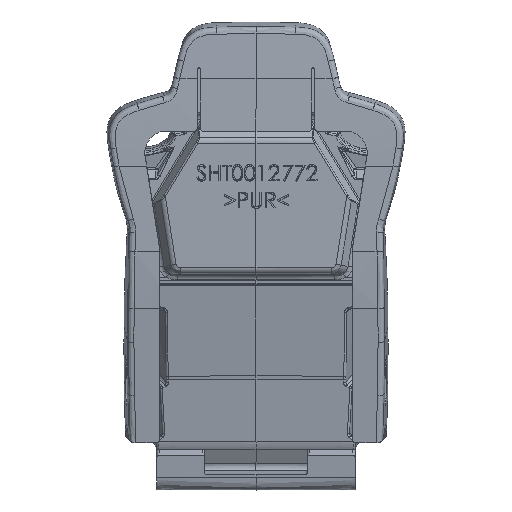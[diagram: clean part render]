
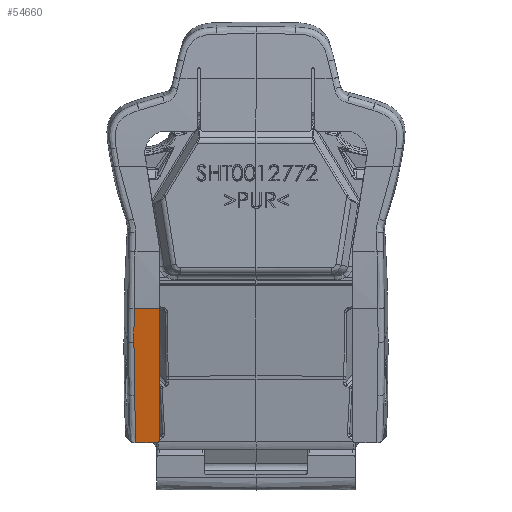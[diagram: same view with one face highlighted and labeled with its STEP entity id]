
A CAD part, left-side view. The second image highlights one B-rep face of the part: STEP entity #54660.
In plain terms, the highlighted planar face has unit normal (-0.984, 0.002, -0.181).
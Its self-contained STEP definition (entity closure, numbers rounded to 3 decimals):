
#54608=AXIS2_PLACEMENT_3D('Plane Axis2P3D',#54605,#54606,#54607) ;
#34523=CARTESIAN_POINT('Vertex',(603.56,-532.773,512.857)) ;
#34526=CARTESIAN_POINT('Line Origine',(603.595,-513.161,512.878)) ;
#34530=CARTESIAN_POINT('Vertex',(603.63,-493.549,512.9)) ;
#34719=CARTESIAN_POINT('Control Point',(603.63,-493.549,512.9)) ;
#34720=CARTESIAN_POINT('Control Point',(602.031,-493.278,521.599)) ;
#34721=CARTESIAN_POINT('Control Point',(600.432,-493.014,530.297)) ;
#34722=CARTESIAN_POINT('Control Point',(598.834,-492.76,538.993)) ;
#34723=CARTESIAN_POINT('Control Point',(595.637,-492.273,556.387)) ;
#34724=CARTESIAN_POINT('Control Point',(592.438,-491.831,573.786)) ;
#34725=CARTESIAN_POINT('Control Point',(590.839,-491.623,582.488)) ;
#34726=CARTESIAN_POINT('Control Point',(589.238,-491.429,591.194)) ;
#34727=CARTESIAN_POINT('Control Point',(587.637,-491.25,599.905)) ;
#34728=CARTESIAN_POINT('Vertex',(587.637,-491.25,599.905)) ;
#54426=CARTESIAN_POINT('Control Point',(587.637,-491.25,599.905)) ;
#54427=CARTESIAN_POINT('Control Point',(584.294,-490.874,618.091)) ;
#54428=CARTESIAN_POINT('Control Point',(580.687,-490.544,637.711)) ;
#54429=CARTESIAN_POINT('Control Point',(576.958,-490.283,657.994)) ;
#54430=CARTESIAN_POINT('Control Point',(573.249,-490.115,678.172)) ;
#54431=CARTESIAN_POINT('Control Point',(569.7,-490.063,697.474)) ;
#54432=CARTESIAN_POINT('Vertex',(569.7,-490.063,697.474)) ;
#54605=CARTESIAN_POINT('Axis2P3D Location',(558.177,-536.776,759.638)) ;
#54611=CARTESIAN_POINT('Control Point',(603.56,-532.773,512.857)) ;
#54612=CARTESIAN_POINT('Control Point',(603.559,-533.15,512.856)) ;
#54613=CARTESIAN_POINT('Control Point',(603.55,-533.527,512.904)) ;
#54614=CARTESIAN_POINT('Control Point',(603.532,-533.895,512.999)) ;
#54615=CARTESIAN_POINT('Control Point',(603.477,-534.616,513.285)) ;
#54616=CARTESIAN_POINT('Control Point',(603.393,-535.243,513.737)) ;
#54617=CARTESIAN_POINT('Control Point',(603.343,-535.534,514.005)) ;
#54618=CARTESIAN_POINT('Control Point',(603.229,-536.06,514.622)) ;
#54619=CARTESIAN_POINT('Control Point',(603.096,-536.429,515.34)) ;
#54620=CARTESIAN_POINT('Control Point',(603.024,-536.575,515.73)) ;
#54621=CARTESIAN_POINT('Control Point',(602.927,-536.706,516.254)) ;
#54622=CARTESIAN_POINT('Control Point',(602.829,-536.761,516.788)) ;
#54623=CARTESIAN_POINT('Control Point',(602.806,-536.769,516.914)) ;
#54624=CARTESIAN_POINT('Control Point',(602.783,-536.773,517.039)) ;
#54625=CARTESIAN_POINT('Control Point',(602.76,-536.773,517.164)) ;
#54626=CARTESIAN_POINT('Vertex',(602.76,-536.773,517.164)) ;
#54629=CARTESIAN_POINT('Line Origine',(580.469,-536.774,638.401)) ;
#54633=CARTESIAN_POINT('Vertex',(558.177,-536.776,759.638)) ;
#54636=CARTESIAN_POINT('Line Origine',(558.223,-513.543,759.641)) ;
#54640=CARTESIAN_POINT('Vertex',(558.269,-490.31,759.643)) ;
#54644=CARTESIAN_POINT('Control Point',(569.7,-490.063,697.474)) ;
#54645=CARTESIAN_POINT('Control Point',(567.414,-490.027,709.907)) ;
#54646=CARTESIAN_POINT('Control Point',(565.128,-490.033,722.34)) ;
#54647=CARTESIAN_POINT('Control Point',(562.842,-490.082,734.774)) ;
#54648=CARTESIAN_POINT('Control Point',(560.555,-490.174,747.209)) ;
#54649=CARTESIAN_POINT('Control Point',(558.269,-490.31,759.643)) ;
#34527=DIRECTION('Vector Direction',(-0.002,-1.,-0.001)) ;
#54606=DIRECTION('Axis2P3D Direction',(0.984,-0.002,0.181)) ;
#54607=DIRECTION('Axis2P3D XDirection',(0.181,0.,-0.984)) ;
#54630=DIRECTION('Vector Direction',(0.181,0.,-0.984)) ;
#54637=DIRECTION('Vector Direction',(-0.002,-1.,0.)) ;
#34528=VECTOR('Line Direction',#34527,1.) ;
#54631=VECTOR('Line Direction',#54630,1.) ;
#54638=VECTOR('Line Direction',#54637,1.) ;
#54652=ORIENTED_EDGE('',*,*,#34532,.T.) ;
#54653=ORIENTED_EDGE('',*,*,#54628,.T.) ;
#54654=ORIENTED_EDGE('',*,*,#54635,.F.) ;
#54655=ORIENTED_EDGE('',*,*,#54642,.F.) ;
#54656=ORIENTED_EDGE('',*,*,#54650,.F.) ;
#54657=ORIENTED_EDGE('',*,*,#54434,.T.) ;
#54658=ORIENTED_EDGE('',*,*,#34730,.T.) ;
#54660=ADVANCED_FACE('SHT0012772',(#54659),#54609,.F.) ;
#34718=B_SPLINE_CURVE_WITH_KNOTS('',5,(#34719,#34720,#34721,#34722,#34723,#34724,#34725,#34726,#34727),.UNSPECIFIED.,.F.,.U.,(6,3,6),(232.574,276.854,321.133),.UNSPECIFIED.) ;
#54425=B_SPLINE_CURVE_WITH_KNOTS('',5,(#54426,#54427,#54428,#54429,#54430,#54431),.UNSPECIFIED.,.F.,.U.,(6,6),(430.347,529.677),.UNSPECIFIED.) ;
#54610=B_SPLINE_CURVE_WITH_KNOTS('',5,(#54611,#54612,#54613,#54614,#54615,#54616,#54617,#54618,#54619,#54620,#54621,#54622,#54623,#54624,#54625),.UNSPECIFIED.,.F.,.U.,(6,3,3,3,6),(0.,2.671,5.468,8.434,9.334),.UNSPECIFIED.) ;
#54643=B_SPLINE_CURVE_WITH_KNOTS('',5,(#54644,#54645,#54646,#54647,#54648,#54649),.UNSPECIFIED.,.F.,.U.,(6,6),(0.,89.396),.UNSPECIFIED.) ;
#34532=EDGE_CURVE('',#34531,#34524,#34529,.T.) ;
#34730=EDGE_CURVE('',#34729,#34531,#34718,.F.) ;
#54434=EDGE_CURVE('',#54433,#34729,#54425,.F.) ;
#54628=EDGE_CURVE('',#34524,#54627,#54610,.T.) ;
#54635=EDGE_CURVE('',#54634,#54627,#54632,.T.) ;
#54642=EDGE_CURVE('',#54641,#54634,#54639,.T.) ;
#54650=EDGE_CURVE('',#54433,#54641,#54643,.T.) ;
#54651=EDGE_LOOP('',(#54652,#54653,#54654,#54655,#54656,#54657,#54658)) ;
#54659=FACE_OUTER_BOUND('',#54651,.T.) ;
#34529=LINE('Line',#34526,#34528) ;
#54632=LINE('Line',#54629,#54631) ;
#54639=LINE('Line',#54636,#54638) ;
#54609=PLANE('Plane',#54608) ;
#34524=VERTEX_POINT('',#34523) ;
#34531=VERTEX_POINT('',#34530) ;
#34729=VERTEX_POINT('',#34728) ;
#54433=VERTEX_POINT('',#54432) ;
#54627=VERTEX_POINT('',#54626) ;
#54634=VERTEX_POINT('',#54633) ;
#54641=VERTEX_POINT('',#54640) ;
